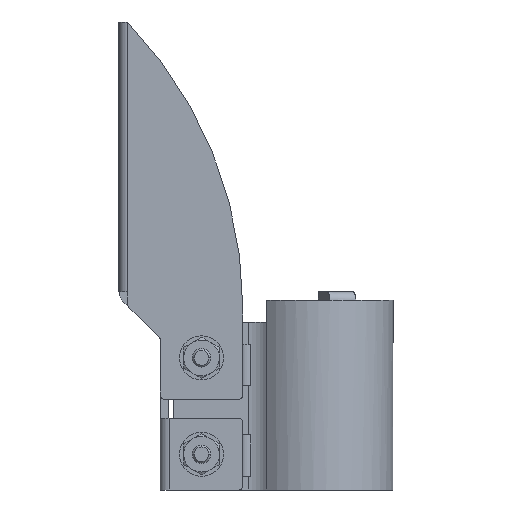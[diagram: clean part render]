
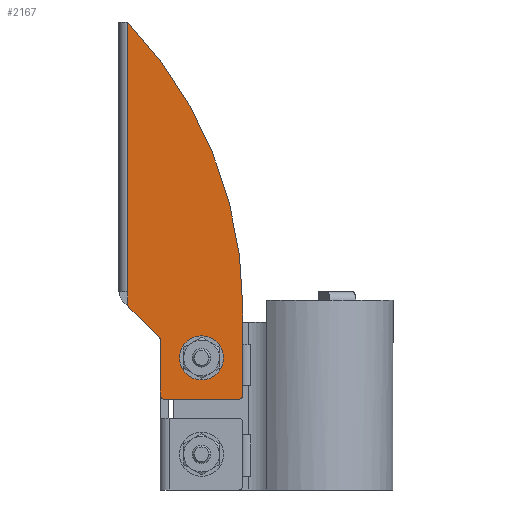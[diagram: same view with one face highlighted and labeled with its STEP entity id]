
A CAD part, front view. The second image highlights one B-rep face of the part: STEP entity #2167.
In plain terms, the highlighted planar face has unit normal (0, -1, 0).
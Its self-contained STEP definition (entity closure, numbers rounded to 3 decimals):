
#336=CARTESIAN_POINT('Vertex',(-11.8,-21.05,170.)) ;
#1106=CARTESIAN_POINT('Vertex',(9.75,-21.05,48.)) ;
#1109=CARTESIAN_POINT('Axis2P3D Location',(15.,-21.05,48.)) ;
#1113=CARTESIAN_POINT('Vertex',(20.25,-21.05,48.)) ;
#1135=CARTESIAN_POINT('Axis2P3D Location',(-120.,-21.05,66.112)) ;
#1139=CARTESIAN_POINT('Vertex',(30.,-21.05,66.112)) ;
#1190=CARTESIAN_POINT('Line Origine',(-11.8,-21.05,121.)) ;
#1194=CARTESIAN_POINT('Vertex',(-11.8,-21.05,72.)) ;
#1222=CARTESIAN_POINT('Axis2P3D Location',(15.,-21.05,48.)) ;
#1776=CARTESIAN_POINT('Axis2P3D Location',(0.,-21.05,0.)) ;
#1840=CARTESIAN_POINT('Vertex',(30.,-21.05,34.5)) ;
#1848=CARTESIAN_POINT('Line Origine',(30.,-21.05,50.306)) ;
#1865=CARTESIAN_POINT('Axis2P3D Location',(28.5,-21.05,34.5)) ;
#1869=CARTESIAN_POINT('Vertex',(28.5,-21.05,33.)) ;
#1891=CARTESIAN_POINT('Line Origine',(0.,-21.05,44.75)) ;
#1895=CARTESIAN_POINT('Vertex',(0.,-21.05,34.5)) ;
#1897=CARTESIAN_POINT('Vertex',(0.,-21.05,55.)) ;
#1937=CARTESIAN_POINT('Vertex',(1.5,-21.05,33.)) ;
#1945=CARTESIAN_POINT('Line Origine',(15.,-21.05,33.)) ;
#1962=CARTESIAN_POINT('Axis2P3D Location',(1.5,-21.05,34.5)) ;
#2073=CARTESIAN_POINT('Vertex',(-11.361,-21.05,66.361)) ;
#2081=CARTESIAN_POINT('Line Origine',(-5.68,-21.05,60.68)) ;
#2104=CARTESIAN_POINT('Vertex',(-11.8,-21.05,67.421)) ;
#2107=CARTESIAN_POINT('Line Origine',(-11.8,-21.05,69.711)) ;
#2146=CARTESIAN_POINT('Axis2P3D Location',(-10.3,-21.05,67.421)) ;
#1110=DIRECTION('Axis2P3D Direction',(0.,1.,-0.)) ;
#1136=DIRECTION('Axis2P3D Direction',(0.,1.,-0.)) ;
#1191=DIRECTION('Vector Direction',(0.,0.,-1.)) ;
#1223=DIRECTION('Axis2P3D Direction',(0.,1.,-0.)) ;
#1777=DIRECTION('Axis2P3D Direction',(0.,1.,-0.)) ;
#1778=DIRECTION('Axis2P3D XDirection',(-1.,0.,0.)) ;
#1849=DIRECTION('Vector Direction',(0.,0.,1.)) ;
#1866=DIRECTION('Axis2P3D Direction',(0.,-1.,0.)) ;
#1892=DIRECTION('Vector Direction',(0.,0.,-1.)) ;
#1946=DIRECTION('Vector Direction',(1.,0.,0.)) ;
#1963=DIRECTION('Axis2P3D Direction',(0.,-1.,0.)) ;
#2082=DIRECTION('Vector Direction',(0.707,0.,-0.707)) ;
#2108=DIRECTION('Vector Direction',(0.,0.,-1.)) ;
#2147=DIRECTION('Axis2P3D Direction',(0.,1.,-0.)) ;
#1111=AXIS2_PLACEMENT_3D('Circle Axis2P3D',#1109,#1110,$) ;
#1137=AXIS2_PLACEMENT_3D('Circle Axis2P3D',#1135,#1136,$) ;
#1224=AXIS2_PLACEMENT_3D('Circle Axis2P3D',#1222,#1223,$) ;
#1779=AXIS2_PLACEMENT_3D('Plane Axis2P3D',#1776,#1777,#1778) ;
#1867=AXIS2_PLACEMENT_3D('Circle Axis2P3D',#1865,#1866,$) ;
#1964=AXIS2_PLACEMENT_3D('Circle Axis2P3D',#1962,#1963,$) ;
#2148=AXIS2_PLACEMENT_3D('Circle Axis2P3D',#2146,#2147,$) ;
#2152=ORIENTED_EDGE('',*,*,#2150,.F.) ;
#2153=ORIENTED_EDGE('',*,*,#2085,.F.) ;
#2154=ORIENTED_EDGE('',*,*,#1899,.F.) ;
#2155=ORIENTED_EDGE('',*,*,#1966,.F.) ;
#2156=ORIENTED_EDGE('',*,*,#1949,.F.) ;
#2157=ORIENTED_EDGE('',*,*,#1871,.F.) ;
#2158=ORIENTED_EDGE('',*,*,#1852,.F.) ;
#2159=ORIENTED_EDGE('',*,*,#1141,.F.) ;
#2160=ORIENTED_EDGE('',*,*,#1196,.F.) ;
#2161=ORIENTED_EDGE('',*,*,#2111,.F.) ;
#2164=ORIENTED_EDGE('',*,*,#1115,.T.) ;
#2165=ORIENTED_EDGE('',*,*,#1226,.T.) ;
#2166=FACE_BOUND('',#2163,.T.) ;
#1192=VECTOR('Line Direction',#1191,1.) ;
#1850=VECTOR('Line Direction',#1849,1.) ;
#1893=VECTOR('Line Direction',#1892,1.) ;
#1947=VECTOR('Line Direction',#1946,1.) ;
#2083=VECTOR('Line Direction',#2082,1.) ;
#2109=VECTOR('Line Direction',#2108,1.) ;
#2167=ADVANCED_FACE('PartBody',(#2162,#2166),#1780,.F.) ;
#1112=CIRCLE('generated circle',#1111,5.25) ;
#1138=CIRCLE('generated circle',#1137,150.) ;
#1225=CIRCLE('generated circle',#1224,5.25) ;
#1868=CIRCLE('generated circle',#1867,1.5) ;
#1965=CIRCLE('generated circle',#1964,1.5) ;
#2149=CIRCLE('generated circle',#2148,1.5) ;
#1115=EDGE_CURVE('',#1114,#1107,#1112,.T.) ;
#1141=EDGE_CURVE('',#337,#1140,#1138,.T.) ;
#1196=EDGE_CURVE('',#1195,#337,#1193,.F.) ;
#1226=EDGE_CURVE('',#1107,#1114,#1225,.T.) ;
#1852=EDGE_CURVE('',#1140,#1841,#1851,.F.) ;
#1871=EDGE_CURVE('',#1841,#1870,#1868,.F.) ;
#1899=EDGE_CURVE('',#1896,#1898,#1894,.F.) ;
#1949=EDGE_CURVE('',#1870,#1938,#1948,.F.) ;
#1966=EDGE_CURVE('',#1938,#1896,#1965,.F.) ;
#2085=EDGE_CURVE('',#1898,#2074,#2084,.F.) ;
#2111=EDGE_CURVE('',#2105,#1195,#2110,.F.) ;
#2150=EDGE_CURVE('',#2074,#2105,#2149,.T.) ;
#2151=EDGE_LOOP('',(#2152,#2153,#2154,#2155,#2156,#2157,#2158,#2159,#2160,#2161)) ;
#2163=EDGE_LOOP('',(#2164,#2165)) ;
#2162=FACE_OUTER_BOUND('',#2151,.T.) ;
#1193=LINE('Line',#1190,#1192) ;
#1851=LINE('Line',#1848,#1850) ;
#1894=LINE('Line',#1891,#1893) ;
#1948=LINE('Line',#1945,#1947) ;
#2084=LINE('Line',#2081,#2083) ;
#2110=LINE('Line',#2107,#2109) ;
#1780=PLANE('',#1779) ;
#337=VERTEX_POINT('',#336) ;
#1107=VERTEX_POINT('',#1106) ;
#1114=VERTEX_POINT('',#1113) ;
#1140=VERTEX_POINT('',#1139) ;
#1195=VERTEX_POINT('',#1194) ;
#1841=VERTEX_POINT('',#1840) ;
#1870=VERTEX_POINT('',#1869) ;
#1896=VERTEX_POINT('',#1895) ;
#1898=VERTEX_POINT('',#1897) ;
#1938=VERTEX_POINT('',#1937) ;
#2074=VERTEX_POINT('',#2073) ;
#2105=VERTEX_POINT('',#2104) ;
